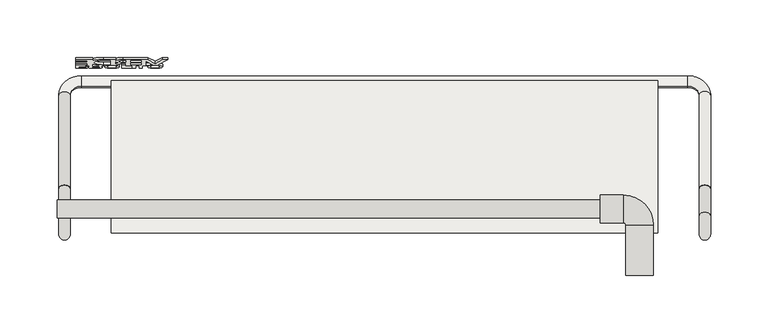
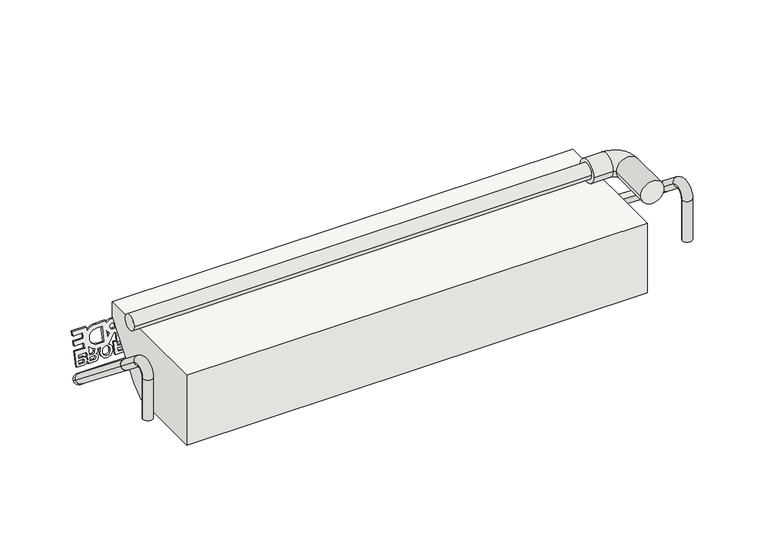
"""IFC4 building model written with IfcOpenShell, lengths in millimetres: covering geometry, panel VP Modulo prova ultima texture : panel VP Modulo prova ultima texture."""

from ifc_helpers import new_model, si_unit, point, frame, frame_2d, origin, place, context, project, spatial, polyline, circle_curve, ellipse_curve, trimmed, segment, composite_curve, outline, extrude, source, transform, mapped, element, save
from ifc_brep_helpers import plane_surface, cylinder_surface, revolved_surface, advanced_brep


def covering_dcb4c012(model_context):
    return source(origin(), model_context, "Body", "SolidModel", [
        extrude(outline(composite_curve([segment(polyline([(34.7220757, 0.0), (58.7996813, 0.0)]), True, "CONTINUOUS"), segment(trimmed(circle_curve(frame_2d((65.064279, 0.602523)), 6.293506), [point((58.7996813, 0.0))], [point((63.4156115, 6.6762462))], False, "CARTESIAN"), True, "CONTINUOUS"), segment(trimmed(circle_curve(frame_2d((65.6666707, 0.6823428)), 6.4026671), [point((63.4156115, 6.6762462))], [point((68.2653757, -5.1692278))], False, "CARTESIAN"), True, "CONTINUOUS"), segment(trimmed(circle_curve(frame_2d((65.2033193, 0.2002614)), 6.1812298), [point((68.2653757, -5.1692278))], [point((64.2093266, -5.9005239))], False, "CARTESIAN"), True, "CONTINUOUS"), segment(polyline([(64.2093266, -5.9005239), (66.3168223, -11.0476864), (75.8016954, -7.1641235), (76.862281, -9.7544046), (66.3136897, -14.073505), (67.4636632, -16.8820993), (78.0122546, -12.5629989), (79.0728402, -15.15328), (68.5242489, -19.4723804), (70.734808, -24.8712558), (61.6931831, -28.5733317), (62.6270622, -30.854156), (73.074875, -33.0832316)]), True, "CONTINUOUS"), segment(trimmed(circle_curve(frame_2d((79.2445531, -34.0648779)), 6.247284), [point((73.074875, -33.0832316))], [point((77.6263487, -28.0308102))], False, "CARTESIAN"), True, "CONTINUOUS"), segment(trimmed(circle_curve(frame_2d((79.877408, -34.0247136)), 6.4026671), [point((77.6263487, -28.0308102))], [point((82.4790998, -39.8749568))], False, "CARTESIAN"), True, "CONTINUOUS"), segment(trimmed(circle_curve(frame_2d((79.4067188, -34.4842118)), 6.2048092), [point((82.4790998, -39.8749568))], [point((77.0112198, -40.2079555))], False, "CARTESIAN"), True, "CONTINUOUS"), segment(polyline([(77.0112198, -40.2079555), (78.1993615, -43.1097685)]), True, "CONTINUOUS"), segment(trimmed(circle_curve(frame_2d((66.5130174, -47.6019204)), 12.5199867), [point((78.1993615, -43.1097685))], [point((78.4709528, -43.8927628))], False, "CARTESIAN"), True, "CONTINUOUS"), segment(polyline([(78.4709528, -43.8927628), (79.5384706, -43.4513167)]), True, "CONTINUOUS"), segment(trimmed(circle_curve(frame_2d((81.1236564, -46.5289179)), 3.4618554), [point((79.5384706, -43.4513167))], [point((83.2640668, -43.8080566))], False, "CARTESIAN"), True, "CONTINUOUS"), segment(trimmed(circle_curve(frame_2d((86.9930546, -44.5041075)), 3.7933939), [point((83.2640668, -43.8080566))], [point((90.5427255, -43.1663204))], False, "CARTESIAN"), True, "CONTINUOUS"), segment(polyline([(90.5427255, -43.1663204), (93.2835774, -49.8603365), (82.7349861, -54.1794368), (86.0955188, -62.3869066), (89.2825225, -61.0819941), (87.602256, -56.9782588)]), True, "CONTINUOUS"), segment(trimmed(circle_curve(frame_2d((91.2496312, -55.4763574)), 3.9444966), [point((87.602256, -56.9782588))], [point((87.6394877, -53.8870441))], False, "CARTESIAN"), True, "CONTINUOUS"), segment(trimmed(circle_curve(frame_2d((91.0795377, -55.4029609)), 3.7592483), [point((87.6394877, -53.8870441))], [point((89.8068057, -51.865716))], False, "CARTESIAN"), True, "CONTINUOUS"), segment(trimmed(circle_curve(frame_2d((91.3826275, -55.3791794)), 3.8506675), [point((89.8068057, -51.865716))], [point((94.9638437, -53.9640713))], False, "CARTESIAN"), True, "CONTINUOUS"), segment(polyline([(94.9638437, -53.9640713), (97.7046957, -60.6580874), (83.1186527, -66.6303145), (79.3291228, -57.3750995), (74.3249248, -59.4240587), (78.1144547, -68.6792737), (74.077003, -70.3324005), (70.2874731, -61.0771855), (65.283275, -63.1261447), (69.0728049, -72.3813598), (65.0353533, -74.0344866), (59.5536495, -60.6464545), (63.573194, -59.0006598)]), True, "CONTINUOUS"), segment(trimmed(circle_curve(frame_2d((67.4307018, -47.253167)), 12.364625), [point((63.573194, -59.0006598))], [point((55.9786182, -51.9151121))], False, "CARTESIAN"), True, "CONTINUOUS"), segment(polyline([(55.9786182, -51.9151121), (51.9745896, -42.1360244), (54.8949193, -40.940301)]), True, "CONTINUOUS"), segment(trimmed(circle_curve(frame_2d((56.8950264, -33.2916253)), 7.9058629), [point((54.8949193, -40.940301))], [point((49.6285766, -36.4063284))], False, "CARTESIAN"), True, "CONTINUOUS"), segment(polyline([(49.6285766, -36.4063284), (41.3068641, -16.0821088), (53.1289126, -4.4511801), (36.5446028, -4.4511801), (34.7220757, 0.0)]), True, "CONTINUOUS")], self_intersect=False), holes=[composite_curve([segment(polyline([(91.3698144, -60.2273564), (94.5568181, -58.9224439), (93.0429627, -55.2251363)]), True, "CONTINUOUS"), segment(trimmed(circle_curve(frame_2d((91.4494608, -55.8775925)), 1.7219023), [point((93.0429627, -55.2251363))], [point((89.855959, -56.5300488))], True, "CARTESIAN"), True, "CONTINUOUS"), segment(polyline([(89.855959, -56.5300488), (91.3698144, -60.2273564)]), True, "CONTINUOUS")], self_intersect=False), composite_curve([segment(polyline([(77.6536647, -53.2354382), (84.8614042, -50.2842432), (83.4804082, -46.9114199)]), True, "CONTINUOUS"), segment(trimmed(circle_curve(frame_2d((82.0055188, -47.9798171)), 1.8212006), [point((83.4804082, -46.9114199))], [point((81.4459172, -46.2467223))], True, "CARTESIAN"), True, "CONTINUOUS"), segment(polyline([(81.4459172, -46.2467223), (79.005401, -46.7813864)]), True, "CONTINUOUS"), segment(trimmed(circle_curve(frame_2d((66.800009, -47.5936694)), 12.2323913), [point((79.005401, -46.7813864))], [point((77.6536647, -53.2354382))], False, "CARTESIAN"), True, "CONTINUOUS")], self_intersect=False), composite_curve([segment(polyline([(80.0469884, -37.8463889), (81.818283, -37.1211357)]), True, "CONTINUOUS"), segment(trimmed(circle_curve(frame_2d((80.3714599, -33.8224141)), 3.6020635), [point((81.818283, -37.1211357))], [point((79.0874462, -30.4569765))], True, "CARTESIAN"), True, "CONTINUOUS"), segment(polyline([(79.0874462, -30.4569765), (77.318043, -31.1814552)]), True, "CONTINUOUS"), segment(trimmed(circle_curve(frame_2d((78.7640582, -34.4805346)), 3.6020668), [point((77.318043, -31.1814552))], [point((80.0469884, -37.8463889))], True, "CARTESIAN"), True, "CONTINUOUS")], self_intersect=False), composite_curve([segment(polyline([(64.8767089, 4.25008), (63.1073058, 3.5256013)]), True, "CONTINUOUS"), segment(trimmed(circle_curve(frame_2d((64.5533209, 0.2265218)), 3.6020668), [point((63.1073058, 3.5256013))], [point((65.8362512, -3.1393324))], True, "CARTESIAN"), True, "CONTINUOUS"), segment(polyline([(65.8362512, -3.1393324), (67.6075457, -2.4140793)]), True, "CONTINUOUS"), segment(trimmed(circle_curve(frame_2d((66.1607227, 0.8846423)), 3.6020635), [point((67.6075457, -2.4140793))], [point((64.8767089, 4.25008))], True, "CARTESIAN"), True, "CONTINUOUS")], self_intersect=False), composite_curve([segment(polyline([(49.3862172, -14.3776132), (62.966359, -8.8172503), (61.7031824, -5.7321785), (62.543491, -5.3881158)]), True, "CONTINUOUS"), segment(trimmed(circle_curve(frame_2d((65.2914898, 0.489271)), 6.4880792), [point((62.543491, -5.3881158))], [point((60.2929855, -3.647168))], False, "CARTESIAN"), True, "CONTINUOUS"), segment(polyline([(60.2929855, -3.647168), (49.3862172, -14.3776132)]), True, "CONTINUOUS")], self_intersect=False), polyline([(47.598802, -19.9351412), (50.9593347, -28.1426109), (55.9635327, -26.0936517), (52.603, -17.8861819), (47.598802, -19.9351412)]), polyline([(60.0009844, -24.4405249), (65.0051824, -22.3915657), (61.6446497, -14.1840959), (56.6404517, -16.2330551), (60.0009844, -24.4405249)]), composite_curve([segment(polyline([(52.651405, -32.2754703), (53.6920251, -34.8169895)]), True, "CONTINUOUS"), segment(trimmed(circle_curve(frame_2d((56.2265541, -33.8697215)), 2.7057631), [point((53.6920251, -34.8169895))], [point((58.6823172, -32.7337722))], True, "CARTESIAN"), True, "CONTINUOUS"), segment(polyline([(58.6823172, -32.7337722), (57.6557066, -30.2264686), (52.651405, -32.2754703)]), True, "CONTINUOUS")], self_intersect=False), composite_curve([segment(polyline([(62.001845, -38.030384), (66.4600604, -36.2049763), (63.0935891, -35.4866797)]), True, "CONTINUOUS"), segment(trimmed(circle_curve(frame_2d((53.824583, -33.01461)), 9.5929977), [point((63.0935891, -35.4866797))], [point((62.001845, -38.030384))], False, "CARTESIAN"), True, "CONTINUOUS")], self_intersect=False), composite_curve([segment(polyline([(57.7042152, -44.6157146), (60.0160698, -50.2619852)]), True, "CONTINUOUS"), segment(trimmed(circle_curve(frame_2d((67.1061304, -47.5504315)), 7.5908816), [point((60.0160698, -50.2619852))], [point((74.0619175, -44.5109401))], True, "CARTESIAN"), True, "CONTINUOUS"), segment(polyline([(74.0619175, -44.5109401), (71.7500629, -38.8646693), (57.7042152, -44.6157146)]), True, "CONTINUOUS")], self_intersect=False), composite_curve([segment(polyline([(86.9486962, -49.4296055), (90.1356999, -48.124693), (88.6218444, -44.4273854)]), True, "CONTINUOUS"), segment(trimmed(circle_curve(frame_2d((87.0283426, -45.0798417)), 1.7219023), [point((88.6218444, -44.4273854))], [point((85.4348407, -45.7322979))], True, "CARTESIAN"), True, "CONTINUOUS"), segment(polyline([(85.4348407, -45.7322979), (86.9486962, -49.4296055)]), True, "CONTINUOUS")], self_intersect=False)]), frame((-175.3240629, 210.3688908, 354.8086038), z_axis=(0.0, -0.9769248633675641, 0.21358326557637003), x_axis=(-0.3789159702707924, -0.19765659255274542, -0.9040766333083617)), (0.0, 0.0, 1.0), 2.0),
        extrude(outline(polyline([(76.2116947, -23.2064962), (79.3986984, -21.9015837), (77.1881392, -16.5027082), (79.2754312, -15.6480706), (82.5465759, -23.6372271), (70.9744162, -28.3754256), (69.9138306, -25.7851445), (74.1244027, -24.0611338), (71.9138436, -18.6622584), (74.0011355, -17.8076207), (76.2116947, -23.2064962)])), frame((-175.3240629, 210.3688908, 354.8086038), z_axis=(0.0, -0.9769248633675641, 0.21358326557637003), x_axis=(-0.3789159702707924, -0.19765659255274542, -0.9040766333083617)), (0.0, 0.0, 1.0), 2.0),
        advanced_brep(
        [(-284.4808119, 63.5015434, 418.5185877), (-284.4808119, 79.5015434, 418.5185877), (187.7808119, 63.5015434, 418.5185877), (187.7808119, 79.5015434, 418.5185877), (187.7808119, 59.5015434, 418.5185877), (187.7808119, 83.5015434, 418.5185877), (207.7808119, 59.5015434, 418.5185877), (207.7808119, 83.5015434, 418.5185877), (209.7808119, 57.5015434, 418.5185877), (233.7808119, 57.5015434, 418.5185877), (209.7808119, 13.5015434, 418.5185877), (233.7808119, 13.5015434, 418.5185877)],
        [
            (0, 1, circle_curve(frame((-284.4808119, 71.5015434, 418.5185877), z_axis=(-1.0, 0.0, 0.0), x_axis=(0.0, 1.0, 0.0)), 8.0)),
            (1, 0, circle_curve(frame((-284.4808119, 71.5015434, 418.5185877), z_axis=(-1.0, 0.0, 0.0), x_axis=(0.0, 1.0, 0.0)), 8.0)),
            (0, 2),
            (2, 3, circle_curve(frame((187.7808119, 71.5015434, 418.5185877), z_axis=(-1.0, 0.0, 0.0), x_axis=(0.0, 1.0, 0.0)), 8.0)),
            (3, 1),
            (3, 2, circle_curve(frame((187.7808119, 71.5015434, 418.5185877), z_axis=(-1.0, 0.0, 0.0), x_axis=(0.0, 1.0, 0.0)), 8.0)),
            (4, 5, circle_curve(frame((187.7808119, 71.5015434, 418.5185877), z_axis=(-1.0, 0.0, 0.0), x_axis=(0.0, 1.0, 0.0)), 12.0)),
            (5, 4, circle_curve(frame((187.7808119, 71.5015434, 418.5185877), z_axis=(-1.0, 0.0, 0.0), x_axis=(0.0, 1.0, 0.0)), 12.0)),
            (4, 6),
            (6, 7, circle_curve(frame((207.7808119, 71.5015434, 418.5185877), z_axis=(-1.0, 0.0, 0.0), x_axis=(0.0, 1.0, 0.0)), 12.0)),
            (7, 5),
            (7, 6, circle_curve(frame((207.7808119, 71.5015434, 418.5185877), z_axis=(-1.0, 0.0, 0.0), x_axis=(0.0, 1.0, 0.0)), 12.0)),
            (6, 8, circle_curve(frame((207.7808119, 57.5015434, 418.5185877), z_axis=(0.0, 0.0, -1.0), x_axis=(0.0, 1.0, 0.0)), 2.0)),
            (8, 9, circle_curve(frame((221.7808119, 57.5015434, 418.5185877), z_axis=(0.0, 1.0, 0.0), x_axis=(1.0, 0.0, 0.0)), 12.0)),
            (9, 7, circle_curve(frame((207.7808119, 57.5015434, 418.5185877), z_axis=(0.0, 0.0, 1.0), x_axis=(0.0, 1.0, 0.0)), 26.0)),
            (9, 8, circle_curve(frame((221.7808119, 57.5015434, 418.5185877), z_axis=(0.0, 1.0, 0.0), x_axis=(1.0, 0.0, 0.0)), 12.0)),
            (10, 11, circle_curve(frame((221.7808119, 13.5015434, 418.5185877), z_axis=(0.0, -1.0, 0.0), x_axis=(1.0, 0.0, 0.0)), 12.0)),
            (11, 10, circle_curve(frame((221.7808119, 13.5015434, 418.5185877), z_axis=(0.0, -1.0, 0.0), x_axis=(1.0, 0.0, 0.0)), 12.0)),
            (8, 10),
            (11, 9),
        ],
        [
            plane_surface(frame((-284.4808119, 63.5015434, 418.5185877), z_axis=(-1.0, 0.0, 0.0), x_axis=(0.0, 0.0, 1.0))),
            cylinder_surface(frame((-284.4808119, 71.5015434, 418.5185877), z_axis=(-1.0, 0.0, 0.0), x_axis=(0.0, 1.0, 0.0)), 8.0),
            plane_surface(frame((187.7808119, 63.5015434, 418.5185877), z_axis=(-1.0, 0.0, 0.0), x_axis=(0.0, 0.0, 1.0))),
            cylinder_surface(frame((187.7808119, 71.5015434, 418.5185877), z_axis=(-1.0, 0.0, 0.0), x_axis=(0.0, 1.0, 0.0)), 12.0),
            revolved_surface(trimmed(ellipse_curve(frame((207.7808119, 71.5015434, 418.5185877), z_axis=(-1.0, 0.0, 0.0), x_axis=(0.0, 1.0, 0.0)), 12.0, 12.0), [point((207.7808119, 59.5015434, 418.5185877))], [point((207.7808119, 83.5015434, 418.5185877))], True, "CARTESIAN"), (207.7808119, 57.5015434, 418.5185877), (0.0, 0.0, -1.0)),
            revolved_surface(trimmed(ellipse_curve(frame((207.7808119, 71.5015434, 418.5185877), z_axis=(-1.0, 0.0, 0.0), x_axis=(0.0, 1.0, 0.0)), 12.0, 12.0), [point((207.7808119, 83.5015434, 418.5185877))], [point((207.7808119, 59.5015434, 418.5185877))], True, "CARTESIAN"), (207.7808119, 57.5015434, 418.5185877), (0.0, 0.0, -1.0)),
            plane_surface(frame((213.7808119, 13.5015434, 418.5185877), z_axis=(0.0, -1.0, 0.0), x_axis=(0.0, 0.0, 1.0))),
            cylinder_surface(frame((221.7808119, 57.5015434, 418.5185877), z_axis=(0.0, 1.0, 0.0), x_axis=(1.0, 0.0, 0.0)), 12.0),
        ],
        [
            (0, [[1, 2]]),
            (1, [[-1, 3, 4, 5]]),
            (1, [[-2, -5, 6, -3]]),
            (2, [[7, 8], [-4, -6]]),
            (3, [[-7, 9, 10, 11]]),
            (3, [[-8, -11, 12, -9]]),
            (4, [[-10, 13, 14, 15]]),
            (5, [[-12, -15, 16, -13]]),
            (6, [[17, 18]]),
            (7, [[-14, 19, -18, 20]]),
            (7, [[-16, -20, -17, -19]]),
        ],
    ),
        advanced_brep(
        [(283.4808119, 89.2250572, 359.3205295), (273.4808119, 89.2251428, 359.3206374), (283.4808119, 170.6491384, 294.8006845), (273.4808119, 170.6492239, 294.8007925), (263.4808119, 178.4869122, 288.5902657), (263.4808119, 186.324515, 282.379631), (-263.4808119, 186.324515, 282.379631), (-263.4808119, 178.4869122, 288.5902657), (-273.4808119, 170.6492239, 294.8007925), (-283.4808119, 170.6491384, 294.8006845), (-283.4808119, 89.2250494, 359.3205356), (-273.4808119, 89.225135, 359.3206436)],
        [
            (0, 1, circle_curve(frame((278.4808119, 89.2250572, 359.3205295), z_axis=(0.0, -0.7837688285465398, 0.6210526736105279), x_axis=(1.0, 0.0, 0.0)), 5.0)),
            (1, 0, circle_curve(frame((278.4808119, 89.2250572, 359.3205295), z_axis=(0.0, -0.7837688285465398, 0.6210526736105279), x_axis=(1.0, 0.0, 0.0)), 5.0)),
            (0, 2),
            (2, 3, circle_curve(frame((278.4808119, 170.6491384, 294.8006845), z_axis=(0.0, -0.7837688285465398, 0.6210526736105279), x_axis=(1.0, 0.0, 0.0)), 5.0)),
            (3, 1),
            (3, 2, circle_curve(frame((278.4808119, 170.6491384, 294.8006845), z_axis=(0.0, -0.7837688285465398, 0.6210526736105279), x_axis=(1.0, 0.0, 0.0)), 5.0)),
            (4, 3, circle_curve(frame((263.4808119, 170.6492239, 294.8007925), z_axis=(0.0, -0.6210526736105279, -0.7837688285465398), x_axis=(1.0, 0.0, 0.0)), 10.0)),
            (2, 5, circle_curve(frame((263.4808119, 170.6491384, 294.8006845), z_axis=(0.0, 0.6210526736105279, 0.7837688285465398), x_axis=(1.0, 0.0, 0.0)), 20.0)),
            (5, 4, circle_curve(frame((263.4808119, 182.4056708, 285.4848944), z_axis=(1.0, 0.0, 0.0), x_axis=(0.0, 0.7837688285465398, -0.6210526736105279)), 5.0)),
            (4, 5, circle_curve(frame((263.4808119, 182.4056708, 285.4848944), z_axis=(1.0, 0.0, 0.0), x_axis=(0.0, 0.7837688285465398, -0.6210526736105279)), 5.0)),
            (5, 6),
            (6, 7, circle_curve(frame((-263.4808119, 182.4056708, 285.4848944), z_axis=(1.0, 0.0, 0.0), x_axis=(0.0, 0.7837688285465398, -0.6210526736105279)), 5.0)),
            (7, 4),
            (7, 6, circle_curve(frame((-263.4808119, 182.4056708, 285.4848944), z_axis=(1.0, 0.0, 0.0), x_axis=(0.0, 0.7837688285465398, -0.6210526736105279)), 5.0)),
            (8, 7, circle_curve(frame((-263.4808119, 170.6492239, 294.8007925), z_axis=(0.0, -0.6210526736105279, -0.7837688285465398), x_axis=(0.0, 0.7837688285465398, -0.6210526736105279)), 10.0)),
            (6, 9, circle_curve(frame((-263.4808119, 170.6491384, 294.8006845), z_axis=(0.0, 0.6210526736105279, 0.7837688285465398), x_axis=(0.0, 0.7837688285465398, -0.6210526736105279)), 20.0)),
            (9, 8, circle_curve(frame((-278.4808119, 170.6491384, 294.8006845), z_axis=(0.0, 0.7837688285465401, -0.6210526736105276), x_axis=(-1.0000000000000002, 0.0, 0.0)), 5.0)),
            (8, 9, circle_curve(frame((-278.4808119, 170.6491384, 294.8006845), z_axis=(0.0, 0.7837688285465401, -0.6210526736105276), x_axis=(-1.0000000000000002, 0.0, 0.0)), 5.0)),
            (10, 11, circle_curve(frame((-278.4808119, 89.2250494, 359.3205356), z_axis=(0.0, -0.7837688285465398, 0.6210526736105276), x_axis=(-1.0, 0.0, 0.0)), 5.0)),
            (11, 10, circle_curve(frame((-278.4808119, 89.2250494, 359.3205356), z_axis=(0.0, -0.7837688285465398, 0.6210526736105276), x_axis=(-1.0, 0.0, 0.0)), 5.0)),
            (9, 10),
            (11, 8),
        ],
        [
            plane_surface(frame((273.4808119, 92.3304015, 363.2394757), z_axis=(0.0, -0.7837688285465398, 0.6210526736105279), x_axis=(0.0, -0.6210526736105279, -0.7837688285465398))),
            cylinder_surface(frame((278.4808119, 89.2250572, 359.3205295), z_axis=(0.0, -0.7837688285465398, 0.6210526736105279), x_axis=(1.0, 0.0, 0.0)), 5.0),
            revolved_surface(trimmed(ellipse_curve(frame((278.4808119, 170.6491384, 294.8006845), z_axis=(0.0, -0.7837688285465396, 0.6210526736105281), x_axis=(1.0, 0.0, 0.0)), 5.0, 5.0), [point((283.4808119, 170.6491384, 294.8006845))], [point((273.4808119, 170.6492239, 294.8007925))], True, "CARTESIAN"), (263.4808119, 173.7544827, 298.7196308), (0.0, 0.6210526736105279, 0.7837688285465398)),
            revolved_surface(trimmed(ellipse_curve(frame((278.4808119, 170.6491384, 294.8006845), z_axis=(0.0, -0.7837688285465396, 0.6210526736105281), x_axis=(1.0, 0.0, 0.0)), 5.0, 5.0), [point((273.4808119, 170.6492239, 294.8007925))], [point((283.4808119, 170.6491384, 294.8006845))], True, "CARTESIAN"), (263.4808119, 173.7544827, 298.7196308), (0.0, 0.6210526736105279, 0.7837688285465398)),
            cylinder_surface(frame((263.4808119, 182.4056708, 285.4848944), z_axis=(1.0000000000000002, 0.0, 0.0), x_axis=(0.0, 0.7837688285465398, -0.6210526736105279)), 5.0),
            revolved_surface(trimmed(ellipse_curve(frame((-263.4808119, 182.4056708, 285.4848944), z_axis=(1.0000000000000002, 0.0, 0.0), x_axis=(0.0, 0.7837688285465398, -0.6210526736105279)), 5.0, 5.0), [point((-263.4808119, 186.324515, 282.379631))], [point((-263.4808119, 178.4869122, 288.5902657))], True, "CARTESIAN"), (-263.4808119, 173.7544827, 298.7196308), (0.0, 0.6210526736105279, 0.7837688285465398)),
            revolved_surface(trimmed(ellipse_curve(frame((-263.4808119, 182.4056708, 285.4848944), z_axis=(1.0000000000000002, 0.0, 0.0), x_axis=(0.0, 0.7837688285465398, -0.6210526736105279)), 5.0, 5.0), [point((-263.4808119, 178.4869122, 288.5902657))], [point((-263.4808119, 186.324515, 282.379631))], True, "CARTESIAN"), (-263.4808119, 173.7544827, 298.7196308), (0.0, 0.6210526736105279, 0.7837688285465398)),
            plane_surface(frame((-273.4808119, 92.3303937, 363.2394819), z_axis=(0.0, -0.7837688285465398, 0.6210526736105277), x_axis=(0.0, -0.6210526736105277, -0.7837688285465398))),
            cylinder_surface(frame((-278.4808119, 170.6491384, 294.8006845), z_axis=(0.0, 0.7837688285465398, -0.6210526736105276), x_axis=(-1.0, 0.0, 0.0)), 5.0),
        ],
        [
            (0, [[1, 2]]),
            (1, [[-1, 3, 4, 5]]),
            (1, [[-2, -5, 6, -3]]),
            (2, [[7, -4, 8, 9]]),
            (3, [[-8, -6, -7, 10]]),
            (4, [[-9, 11, 12, 13]]),
            (4, [[-10, -13, 14, -11]]),
            (5, [[15, -12, 16, 17]]),
            (6, [[-16, -14, -15, 18]]),
            (7, [[19, 20]]),
            (8, [[-17, 21, -20, 22]]),
            (8, [[-18, -22, -19, -21]]),
        ],
    ),
        advanced_brep(
        [(-273.4808119, 89.225135, 359.3206436), (-283.4808119, 89.225135, 359.3206436), (-283.4808119, 65.7120701, 377.9522238), (-273.4808119, 65.7120701, 377.9522238), (-273.4808119, 49.5015434, 370.1145355), (-283.4808119, 49.5015434, 370.1145355), (-273.4808119, 49.5015434, 325.8123903), (-283.4808119, 49.5015434, 325.8123903)],
        [
            (0, 1, circle_curve(frame((-278.4808119, 89.225135, 359.3206436), z_axis=(0.0, 0.7837688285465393, -0.6210526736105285), x_axis=(-1.0, 0.0, 0.0)), 5.0)),
            (1, 0, circle_curve(frame((-278.4808119, 89.225135, 359.3206436), z_axis=(0.0, 0.7837688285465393, -0.6210526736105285), x_axis=(-1.0, 0.0, 0.0)), 5.0)),
            (1, 2),
            (2, 3, circle_curve(frame((-278.4808119, 65.7120701, 377.9522238), z_axis=(0.0, 0.7837688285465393, -0.6210526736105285), x_axis=(-1.0, 0.0, 0.0)), 5.0)),
            (3, 0),
            (3, 2, circle_curve(frame((-278.4808119, 65.7120701, 377.9522238), z_axis=(0.0, 0.7837688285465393, -0.6210526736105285), x_axis=(-1.0, 0.0, 0.0)), 5.0)),
            (4, 3, circle_curve(frame((-273.4808119, 59.5015434, 370.1145355), z_axis=(-1.0, 0.0, 0.0), x_axis=(0.0, 0.6210526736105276, 0.78376882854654)), 10.0)),
            (2, 5, circle_curve(frame((-283.4808119, 59.5015434, 370.1145355), z_axis=(1.0, 0.0, 0.0), x_axis=(0.0, 0.6210526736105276, 0.78376882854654)), 10.0)),
            (5, 4, circle_curve(frame((-278.4808119, 49.5015434, 370.1145355), z_axis=(0.0, 0.0, 1.0), x_axis=(-1.0, 0.0, 0.0)), 5.0)),
            (4, 5, circle_curve(frame((-278.4808119, 49.5015434, 370.1145355), z_axis=(0.0, 0.0, 1.0), x_axis=(-1.0, 0.0, 0.0)), 5.0)),
            (6, 7, circle_curve(frame((-278.4808119, 49.5015434, 325.8123903), z_axis=(0.0, 0.0, -1.0), x_axis=(-1.0, 0.0, 0.0)), 5.0)),
            (7, 6, circle_curve(frame((-278.4808119, 49.5015434, 325.8123903), z_axis=(0.0, 0.0, -1.0), x_axis=(-1.0, 0.0, 0.0)), 5.0)),
            (5, 7),
            (6, 4),
        ],
        [
            plane_surface(frame((-273.4808119, 89.225135, 359.3206436), z_axis=(0.0, 0.7837688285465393, -0.6210526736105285), x_axis=(-1.0, 0.0, 0.0))),
            cylinder_surface(frame((-278.4808119, 89.225135, 359.3206436), z_axis=(0.0, 0.7837688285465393, -0.6210526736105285), x_axis=(-1.0, 0.0, 0.0)), 5.0),
            revolved_surface(trimmed(ellipse_curve(frame((-278.4808119, 65.7120701, 377.9522238), z_axis=(0.0, 0.78376882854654, -0.6210526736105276), x_axis=(-1.0, 0.0, 0.0)), 5.0, 5.0), [point((-283.4808119, 65.7120701, 377.9522238))], [point((-273.4808119, 65.7120701, 377.9522238))], True, "CARTESIAN"), (-273.4808119, 59.5015434, 370.1145355), (1.0, 0.0, 0.0)),
            revolved_surface(trimmed(ellipse_curve(frame((-278.4808119, 65.7120701, 377.9522238), z_axis=(0.0, 0.78376882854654, -0.6210526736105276), x_axis=(-1.0, 0.0, 0.0)), 5.0, 5.0), [point((-273.4808119, 65.7120701, 377.9522238))], [point((-283.4808119, 65.7120701, 377.9522238))], True, "CARTESIAN"), (-273.4808119, 59.5015434, 370.1145355), (1.0, 0.0, 0.0)),
            plane_surface(frame((-273.4808119, 49.5015434, 325.8123903), z_axis=(0.0, 0.0, -1.0), x_axis=(-1.0, 0.0, 0.0))),
            cylinder_surface(frame((-278.4808119, 49.5015434, 370.1145355), z_axis=(0.0, 0.0, 1.0), x_axis=(-1.0, 0.0, 0.0)), 5.0),
        ],
        [
            (0, [[1, 2]]),
            (1, [[-2, 3, 4, 5]]),
            (1, [[-1, -5, 6, -3]]),
            (2, [[7, -4, 8, 9]]),
            (3, [[-8, -6, -7, 10]]),
            (4, [[11, 12]]),
            (5, [[-9, 13, -11, 14]]),
            (5, [[-10, -14, -12, -13]]),
        ],
    ),
        advanced_brep(
        [(273.4808119, 89.2251242, 359.320614), (283.4808119, 89.2251242, 359.320614), (273.4808119, 65.7120779, 377.9522176), (283.4808119, 65.7120779, 377.9522176), (283.4808119, 49.5015434, 370.1145355), (273.4808119, 49.5015434, 370.1145355), (273.4808119, 49.5015434, 325.8123903), (283.4808119, 49.5015434, 325.8123903)],
        [
            (0, 1, circle_curve(frame((278.4808119, 89.2251242, 359.320614), z_axis=(0.0, 0.7837682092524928, -0.621053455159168), x_axis=(1.0, 0.0, 0.0)), 5.0)),
            (1, 0, circle_curve(frame((278.4808119, 89.2251242, 359.320614), z_axis=(0.0, 0.7837682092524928, -0.621053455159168), x_axis=(1.0, 0.0, 0.0)), 5.0)),
            (0, 2),
            (2, 3, circle_curve(frame((278.4808119, 65.7120779, 377.9522176), z_axis=(0.0, 0.7837682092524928, -0.621053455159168), x_axis=(1.0, 0.0, 0.0)), 5.0)),
            (3, 1),
            (3, 2, circle_curve(frame((278.4808119, 65.7120779, 377.9522176), z_axis=(0.0, 0.7837682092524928, -0.621053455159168), x_axis=(1.0, 0.0, 0.0)), 5.0)),
            (4, 3, circle_curve(frame((283.4808119, 59.5015434, 370.1145355), z_axis=(-1.0, 0.0, 0.0), x_axis=(0.0, 0.6210534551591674, 0.7837682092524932)), 10.0)),
            (2, 5, circle_curve(frame((273.4808119, 59.5015434, 370.1145355), z_axis=(1.0, 0.0, 0.0), x_axis=(0.0, 0.6210534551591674, 0.7837682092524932)), 10.0)),
            (5, 4, circle_curve(frame((278.4808119, 49.5015434, 370.1145355), z_axis=(0.0, 0.0, 1.0), x_axis=(1.0, 0.0, 0.0)), 5.0)),
            (4, 5, circle_curve(frame((278.4808119, 49.5015434, 370.1145355), z_axis=(0.0, 0.0, 1.0), x_axis=(1.0, 0.0, 0.0)), 5.0)),
            (6, 7, circle_curve(frame((278.4808119, 49.5015434, 325.8123903), z_axis=(0.0, 0.0, -1.0), x_axis=(1.0, 0.0, 0.0)), 5.0)),
            (7, 6, circle_curve(frame((278.4808119, 49.5015434, 325.8123903), z_axis=(0.0, 0.0, -1.0), x_axis=(1.0, 0.0, 0.0)), 5.0)),
            (5, 6),
            (7, 4),
        ],
        [
            plane_surface(frame((273.4808119, 89.2251242, 359.320614), z_axis=(0.0, 0.7837682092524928, -0.621053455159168), x_axis=(1.0, 0.0, 0.0))),
            cylinder_surface(frame((278.4808119, 89.2251242, 359.320614), z_axis=(0.0, 0.7837682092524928, -0.621053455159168), x_axis=(1.0, 0.0, 0.0)), 5.0),
            revolved_surface(trimmed(ellipse_curve(frame((278.4808119, 65.7120779, 377.9522176), z_axis=(0.0, 0.7837682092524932, -0.6210534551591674), x_axis=(1.0, 0.0, 0.0)), 5.0, 5.0), [point((273.4808119, 65.7120779, 377.9522176))], [point((283.4808119, 65.7120779, 377.9522176))], True, "CARTESIAN"), (273.4808119, 59.5015434, 370.1145355), (1.0, 0.0, 0.0)),
            revolved_surface(trimmed(ellipse_curve(frame((278.4808119, 65.7120779, 377.9522176), z_axis=(0.0, 0.7837682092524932, -0.6210534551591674), x_axis=(1.0, 0.0, 0.0)), 5.0, 5.0), [point((283.4808119, 65.7120779, 377.9522176))], [point((273.4808119, 65.7120779, 377.9522176))], True, "CARTESIAN"), (273.4808119, 59.5015434, 370.1145355), (1.0, 0.0, 0.0)),
            plane_surface(frame((273.4808119, 49.5015434, 325.8123903), z_axis=(0.0, 0.0, -1.0), x_axis=(1.0, 0.0, 0.0))),
            cylinder_surface(frame((278.4808119, 49.5015434, 370.1145355), z_axis=(0.0, 0.0, 1.0), x_axis=(1.0, 0.0, 0.0)), 5.0),
        ],
        [
            (0, [[1, 2]]),
            (1, [[-1, 3, 4, 5]]),
            (1, [[-2, -5, 6, -3]]),
            (2, [[7, -4, 8, 9]]),
            (3, [[-8, -6, -7, 10]]),
            (4, [[11, 12]]),
            (5, [[-9, 13, -12, 14]]),
            (5, [[-10, -14, -11, -13]]),
        ],
    ),
        extrude(outline(polyline([(132.1625373, 280.858924), (50.5015434, 280.858924), (50.5015434, 356.858924), (183.4941844, 356.858924), (183.4941844, 341.1922009), (143.8388149, 291.1471056), (132.1625373, 280.858924)])), frame((-237.7808119, 0.0, 0.0), z_axis=(1.0, 0.0, 0.0), x_axis=(0.0, 1.0, 0.0)), (0.0, 0.0, 1.0), 475.5616238),
    ])


if __name__ == "__main__":
    model = new_model("IFC4")
    model_context = context("Model", 3, world=origin())
    ifc_project = project(units=[si_unit("LENGTHUNIT", "METRE", prefix="MILLI")], contexts=[model_context])
    site = spatial("IfcSite", under=ifc_project)
    building = spatial("IfcBuilding", under=site)
    placement = place(None, origin())
    covering_shape = covering_dcb4c012(model_context)
    element("IfcCovering", 1, ObjectType="panel VP Modulo prova ultima texture : panel VP Modulo prova ultima texture", at=placement, inside=building, context=model_context, shape_type="MappedRepresentation", body=[
        mapped(covering_shape, transform((0.0, 0.0, 0.0), x_axis=(1.0, 0.0, 0.0), y_axis=(0.0, 1.0, 0.0), z_axis=(0.0, 0.0, 1.0))),
    ])
    save(model, "model.ifc")
